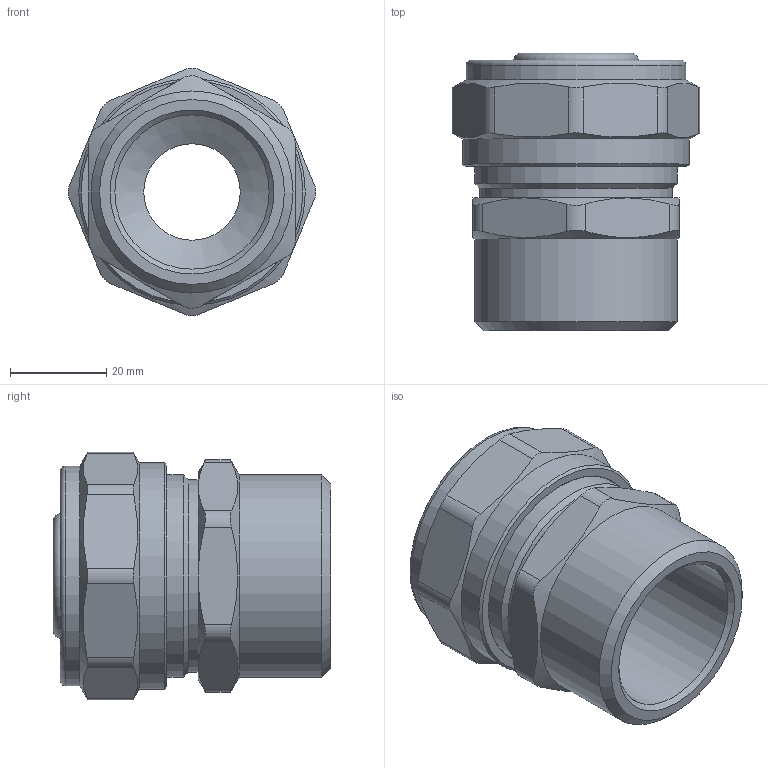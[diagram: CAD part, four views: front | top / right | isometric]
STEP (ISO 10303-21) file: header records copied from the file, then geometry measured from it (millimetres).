
FILE_DESCRIPTION(('STEP AP203'), '1');
FILE_NAME('VTm.301.N.003207', '', ('UNSPECIFIED'), ('UNSPECIFIED'), 'C3D Converter', 'C3D Toolkit', '');
FILE_SCHEMA(('CONFIG_CONTROL_DESIGN'));
Length unit declared in the file: millimetre
Products named in the file (1): ВР.302634.057.000 СБ
Bounding box: 51.3 x 57.5 x 51.3 mm (x, y, z)
Volume: 47885.3 mm3; surface area: 24247.5 mm2
Topology: 1 solids, 1 shells, 326 faces, 878 edges, 576 vertices
Faces by surface type: extrusion 129, plane 100, cylinder 45, torus 29, cone 23
Full cylindrical faces by diameter (mm): 20 x1, 22.8 x4, 25.8 x5, 26 x1, 32 x1, 32.1 x1, 32.2 x1, 32.7 x1, 40 x1, 40.376 x1, 41.91 x1, 42 x1, 45.5 x1, 47 x1
Entity records: 12696 total; most frequent: CARTESIAN_POINT 5346, ORIENTED_EDGE 1658, DIRECTION 1082, EDGE_CURVE 829, VERTEX_POINT 576, B_SPLINE_CURVE_WITH_KNOTS 492, VECTOR 464, EDGE_LOOP 399
